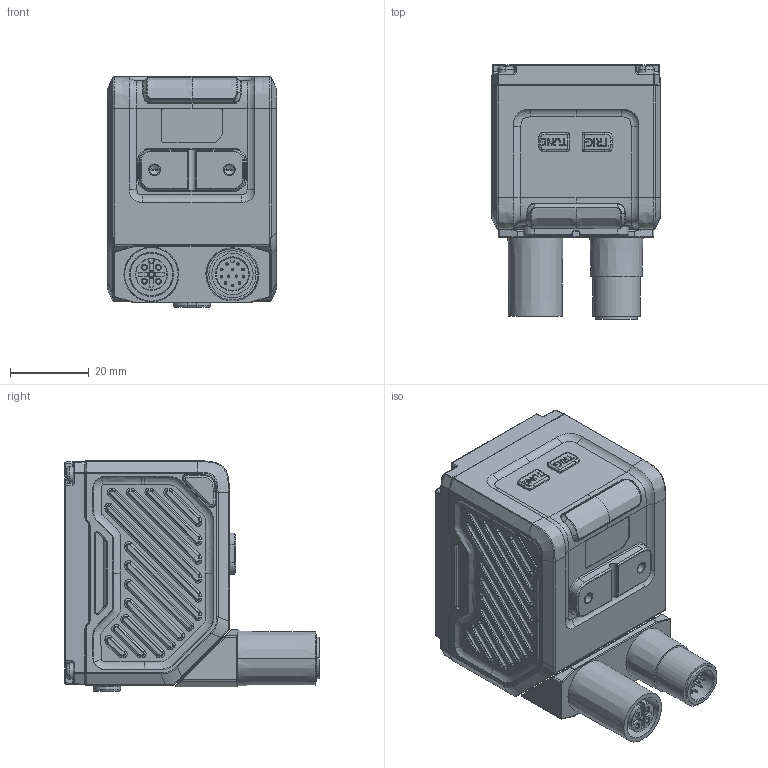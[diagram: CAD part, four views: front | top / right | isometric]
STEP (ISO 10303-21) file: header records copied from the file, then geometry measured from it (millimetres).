
FILE_DESCRIPTION((''),'2;1');
FILE_NAME('DE-13-001158','2025-07-28T14:48:38',('qinyangfan'),(''),'CREO PARAMETRIC BY PTC INC, 2020044','CREO PARAMETRIC BY PTC INC, 2020044','');
FILE_SCHEMA(('CONFIG_CONTROL_DESIGN'));
Products named in the file (1): DE-13-001158
Bounding box: 43 x 64.64 x 58.5 mm (x, y, z)
Volume: 98994.4 mm3; surface area: 28050.1 mm2
Topology: 2 solids, 29 shells, 2278 faces, 5584 edges, 3430 vertices
Faces by surface type: cylinder 849, plane 734, torus 272, cone 180, bspline 167, extrusion 68, sphere 6, revolution 2
Entity records: 92213 total; most frequent: CARTESIAN_POINT 39133, DIRECTION 11105, ORIENTED_EDGE 11044, EDGE_CURVE 5552, AXIS2_PLACEMENT_3D 4197, VERTEX_POINT 3430, VECTOR 2709, LINE 2641
